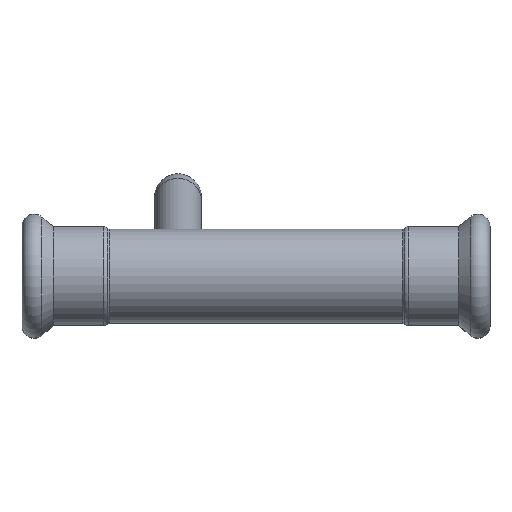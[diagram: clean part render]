
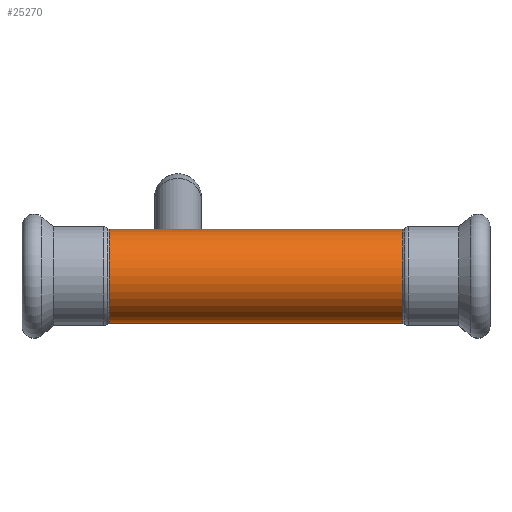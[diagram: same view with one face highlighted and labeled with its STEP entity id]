
A CAD part, top view. The second image highlights one B-rep face of the part: STEP entity #25270.
In plain terms, the highlighted cylindrical face has radius 12 mm (diameter 24 mm), a partial arc.
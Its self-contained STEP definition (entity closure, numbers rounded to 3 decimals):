
#2080=CARTESIAN_POINT('',(-62.725,133.711,
0.));
#2090=VERTEX_POINT('',#2080);
#2270=CARTESIAN_POINT('',(-62.725,157.711,0.));
#2280=VERTEX_POINT('',#2270);
#2310=CARTESIAN_POINT('',(-62.725,145.711,0.));
#2320=DIRECTION('',(1.,0.,0.));
#2330=DIRECTION('',(0.,-1.,0.));
#2340=AXIS2_PLACEMENT_3D('',#2310,#2320,#2330);
#2350=CIRCLE('',#2340,12.);
#6110=CARTESIAN_POINT('',(12.634,133.711,0.));
#6120=VERTEX_POINT('',#6110);
#6150=CARTESIAN_POINT('',(12.634,145.711,0.));
#6160=DIRECTION('',(1.,0.,0.));
#6170=DIRECTION('',(0.,-1.,0.));
#6180=AXIS2_PLACEMENT_3D('',#6150,#6160,#6170);
#6190=CIRCLE('',#6180,12.);
#6200=CARTESIAN_POINT('',(12.634,157.711,
0.));
#6210=VERTEX_POINT('',#6200);
#24910=CARTESIAN_POINT('',(-25.045,145.711,0.));
#24920=DIRECTION('',(-1.,0.,0.));
#24930=DIRECTION('',(0.,1.,0.));
#24940=AXIS2_PLACEMENT_3D('',#24910,#24920,#24930);
#24950=CYLINDRICAL_SURFACE('',#24940,12.);
#25020=CARTESIAN_POINT('',(-25.045,157.711,0.));
#25030=DIRECTION('',(-1.,0.,0.));
#25040=VECTOR('',#25030,1.);
#25050=LINE('',#25020,#25040);
#25060=EDGE_CURVE('',#6210,#2280,#25050,.T.);
#25090=CARTESIAN_POINT('',(-25.045,133.711,
0.));
#25100=DIRECTION('',(-1.,0.,0.));
#25110=VECTOR('',#25100,1.);
#25120=LINE('',#25090,#25110);
#25130=EDGE_CURVE('',#6120,#2090,#25120,.T.);
#25190=EDGE_CURVE('',#2090,#2280,#2350,.T.);
#25200=ORIENTED_EDGE('',*,*,#25190,.T.);
#25210=ORIENTED_EDGE('',*,*,#25130,.T.);
#25220=EDGE_CURVE('',#6120,#6210,#6190,.T.);
#25230=ORIENTED_EDGE('',*,*,#25220,.F.);
#25240=ORIENTED_EDGE('',*,*,#25060,.F.);
#25250=EDGE_LOOP('',(#25240,#25230,#25210,#25200));
#25260=FACE_OUTER_BOUND('',#25250,.T.);
#25270=ADVANCED_FACE('',(#25260),#24950,.T.);
